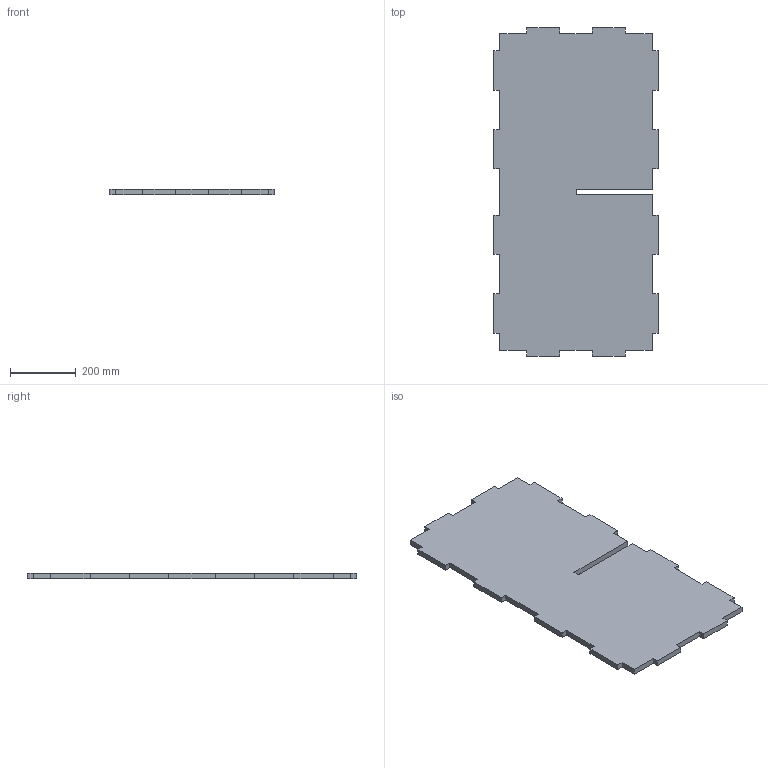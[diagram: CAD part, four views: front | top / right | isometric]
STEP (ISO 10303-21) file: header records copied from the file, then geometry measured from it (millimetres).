
FILE_DESCRIPTION(('Open CASCADE Model'),'2;1');
FILE_NAME('Open CASCADE Shape Model','2026-09-28T10:14:44',('Author'),( 'Open CASCADE'),'Open CASCADE STEP processor 7.9','Open CASCADE 7.9' ,'Unknown');
FILE_SCHEMA(('AUTOMOTIVE_DESIGN { 1 0 10303 214 1 1 1 1 }'));
Length unit declared in the file: millimetre
Products named in the file (1): Open CASCADE STEP translator 7.9 69
Bounding box: 500 x 1000 x 18 mm (x, y, z)
Volume: 8415964.8 mm3; surface area: 1002643.2 mm2
Topology: 1 solids, 1 shells, 58 faces, 168 edges, 112 vertices
Faces by surface type: plane 58
Entity records: 4066 total; most frequent: CARTESIAN_POINT 675, DIRECTION 622, LINE 504, VECTOR 504, ORIENTED_EDGE 336, PCURVE 336, DEFINITIONAL_REPRESENTATION 336, EDGE_CURVE 168
